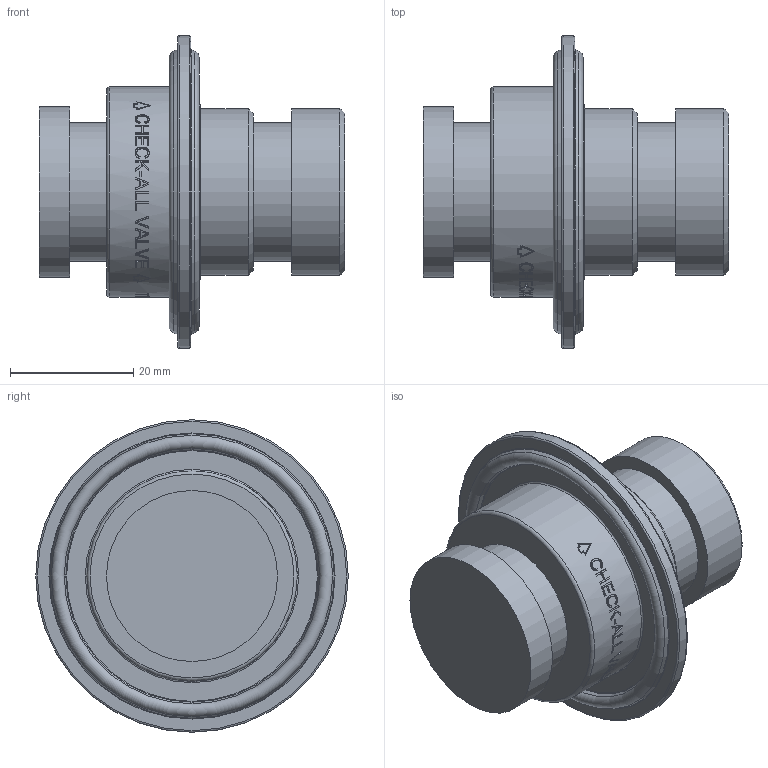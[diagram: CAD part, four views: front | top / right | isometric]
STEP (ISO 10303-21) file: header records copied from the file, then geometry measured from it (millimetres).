
FILE_DESCRIPTION( ( 'Unknown' ), '1' );
FILE_NAME( 'Y:/ENGR/3D Solid Edge Models/TC/Stp/TCJ.stp', 'Unknown', ( 'Unknown' ), ( 'Unknown' ), 'PSStep 16.0.42', 'Unknown', ' ' );
FILE_SCHEMA( ( 'AUTOMOTIVE_DESIGN { 1 0 10303 214 1 1 1 1 }' ) );
Length unit declared in the file: millimetre
Products named in the file (1): 1
Bounding box: 49.66 x 50.8 x 50.8 mm (x, y, z)
Volume: 34544.3 mm3; surface area: 9490 mm2
Topology: 1 solids, 1 shells, 218 faces, 545 edges, 360 vertices
Faces by surface type: plane 121, bspline 48, cylinder 30, torus 12, cone 7
Full cylindrical faces by diameter (mm): 22.606 x2, 27.102 x2, 27.813 x1, 34.163 x1, 50.8 x1
Entity records: 9626 total; most frequent: CARTESIAN_POINT 3861, ORIENTED_EDGE 1020, EDGE_CURVE 510, B_SPLINE_CURVE_WITH_KNOTS 474, DIRECTION 414, VERTEX_POINT 352, EDGE_LOOP 276, FACE_OUTER_BOUND 237
